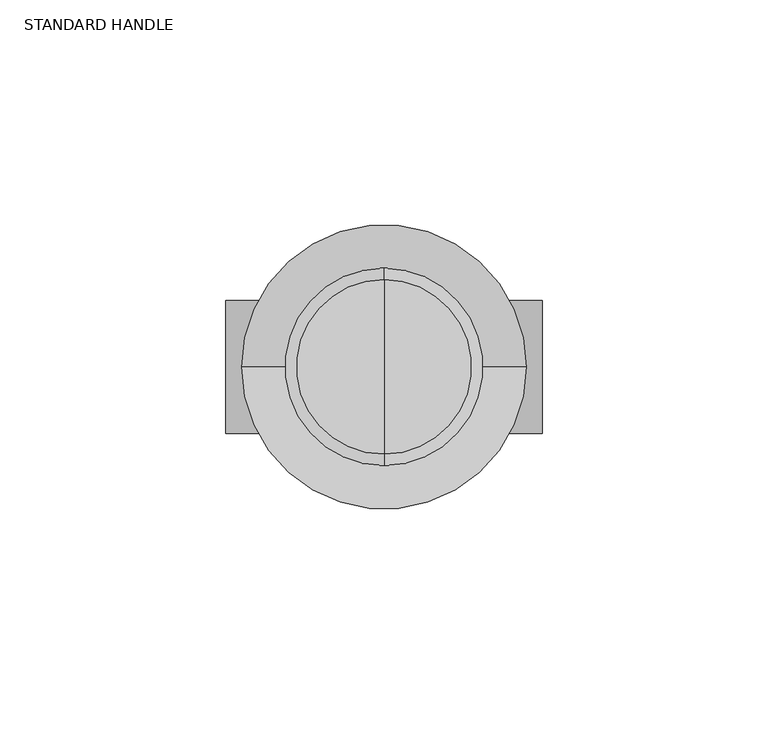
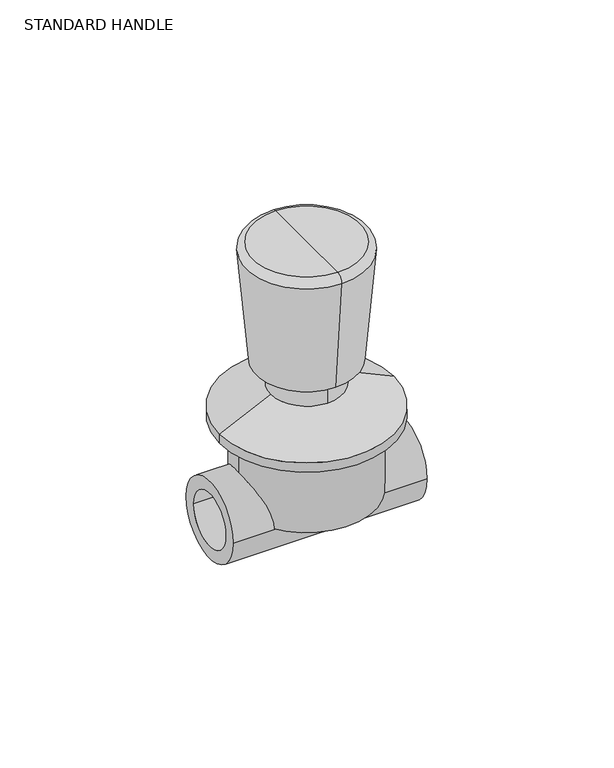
"""IFC4 building model written with IfcOpenShell, lengths in millimetres: valve geometry, Aquatherm - Concealed Valve Standard With Handle : STANDARD HANDLE."""

from ifc_helpers import new_model, si_unit, point, frame, origin, origin_2d, place, context, project, spatial, polyline, circle_curve, ellipse_curve, trimmed, segment, composite_curve, outline, extrude, source, transform, mapped, element, save
from ifc_brep_helpers import plane_surface, cylinder_surface, revolved_surface, advanced_brep


def standard_handle_3c3e3a59(model_context):
    return source(origin(), model_context, "Body", "SolidModel", [
        advanced_brep(
        [(0.0, 19.3406564, 93.98), (0.0, -19.3406564, 93.98), (0.0, 0.0, 93.98), (0.0, 21.870991, 91.2186244), (0.0, -21.870991, 91.2186244), (0.0, 18.2125979, 49.403), (0.0, -18.2125979, 49.403), (0.0, 12.9442633, 49.403), (0.0, -12.9442633, 49.403), (0.0, 12.9442633, 40.193595), (0.0, -12.9442633, 40.193595), (0.0, 0.0, 40.193595)],
        [
            (0, 1, circle_curve(frame((0.0, 0.0, 93.98), z_axis=(0.0, 0.0, 1.0), x_axis=(0.0, -1.0, 0.0)), 19.3406564)),
            (1, 2),
            (2, 0),
            (1, 0, circle_curve(frame((0.0, 0.0, 93.98), z_axis=(0.0, 0.0, 1.0), x_axis=(0.0, -1.0, 0.0)), 19.3406564)),
            (3, 4, circle_curve(frame((0.0, 0.0, 91.2186244), z_axis=(0.0, 0.0, 1.0), x_axis=(0.0, -1.0, 0.0)), 21.870991)),
            (4, 1, circle_curve(frame((0.0, -19.3406564, 91.44), z_axis=(-1.0, 0.0, 0.0), x_axis=(0.0, -1.0, 0.0)), 2.54)),
            (0, 3, circle_curve(frame((0.0, 19.3406564, 91.44), z_axis=(-1.0, 0.0, 0.0), x_axis=(0.0, 1.0, 0.0)), 2.54)),
            (4, 3, circle_curve(frame((0.0, 0.0, 91.2186244), z_axis=(0.0, 0.0, 1.0), x_axis=(0.0, -1.0, 0.0)), 21.870991)),
            (5, 6, circle_curve(frame((0.0, 0.0, 49.403), z_axis=(0.0, 0.0, 1.0), x_axis=(0.0, -1.0, 0.0)), 18.2125979)),
            (6, 4),
            (3, 5),
            (6, 5, circle_curve(frame((0.0, 0.0, 49.403), z_axis=(0.0, 0.0, 1.0), x_axis=(0.0, -1.0, 0.0)), 18.2125979)),
            (7, 8, circle_curve(frame((0.0, 0.0, 49.403), z_axis=(0.0, 0.0, 1.0), x_axis=(0.0, -1.0, 0.0)), 12.9442633)),
            (8, 6),
            (5, 7),
            (8, 7, circle_curve(frame((0.0, 0.0, 49.403), z_axis=(0.0, 0.0, 1.0), x_axis=(0.0, -1.0, 0.0)), 12.9442633)),
            (9, 10, circle_curve(frame((0.0, 0.0, 40.193595), z_axis=(0.0, 0.0, 1.0), x_axis=(0.0, -1.0, 0.0)), 12.9442633)),
            (10, 8),
            (7, 9),
            (10, 9, circle_curve(frame((0.0, 0.0, 40.193595), z_axis=(0.0, 0.0, 1.0), x_axis=(0.0, -1.0, 0.0)), 12.9442633)),
            (11, 10),
            (9, 11),
        ],
        [
            plane_surface(frame((0.0, 0.0, 93.98), z_axis=(0.0, 0.0, 1.0), x_axis=(0.0, -1.0, 0.0))),
            revolved_surface(trimmed(ellipse_curve(frame((0.0, -19.3406564, 91.44), z_axis=(1.0, 0.0, 0.0), x_axis=(0.0, -1.0, 0.0)), 2.54, 2.54), [point((0.0, -19.3406564, 93.98))], [point((0.0, -21.870991, 91.2186244))], True, "CARTESIAN"), (0.0, 0.0, 116.5596097), (0.0, 0.0, -1.0)),
            revolved_surface(polyline([(0.0, -21.870991, 91.2186244), (0.0, -18.2125979, 49.403)]), (0.0, 0.0, 116.5596097), (0.0, 0.0, -1.0)),
            plane_surface(frame((0.0, 0.0, 49.403), z_axis=(0.0, 0.0, -1.0), x_axis=(0.0, -1.0, 0.0))),
            cylinder_surface(frame((0.0, 0.0, 116.5596097), z_axis=(0.0, 0.0, -1.0), x_axis=(0.0, -1.0, 0.0)), 12.9442633),
            plane_surface(frame((0.0, 0.0, 40.193595), z_axis=(0.0, 0.0, -1.0), x_axis=(0.0, -1.0, 0.0))),
        ],
        [
            (0, [[1, 2, 3]]),
            (0, [[4, -3, -2]]),
            (1, [[5, 6, -1, 7]]),
            (1, [[8, -7, -4, -6]]),
            (2, [[9, 10, -5, 11]]),
            (2, [[12, -11, -8, -10]]),
            (3, [[13, 14, -9, 15]]),
            (3, [[16, -15, -12, -14]]),
            (4, [[17, 18, -13, 19]]),
            (4, [[20, -19, -16, -18]]),
            (5, [[21, -17, 22]]),
            (5, [[-22, -20, -21]]),
        ],
    ),
        advanced_brep(
        [(-12.827, 0.0, 40.193595), (12.827, 0.0, 40.193595), (-31.496, 0.0, 31.4917667), (31.496, 0.0, 31.4917667)],
        [
            (0, 1, circle_curve(frame((0.0, 0.0, 40.193595), z_axis=(0.0, 0.0, 1.0), x_axis=(-1.0, 0.0, 0.0)), 12.827)),
            (1, 0, circle_curve(frame((0.0, 0.0, 40.193595), z_axis=(0.0, 0.0, 1.0), x_axis=(1.0, 0.0, 0.0)), 12.827)),
            (2, 3, circle_curve(frame((0.0, 0.0, 31.4917667), z_axis=(0.0, 0.0, -1.0), x_axis=(1.0, 0.0, 0.0)), 31.496)),
            (3, 2, circle_curve(frame((0.0, 0.0, 31.4917667), z_axis=(0.0, 0.0, -1.0), x_axis=(-1.0, 0.0, 0.0)), 31.496)),
            (3, 1),
            (0, 2),
        ],
        [
            plane_surface(frame((0.0, 0.0, 40.193595), z_axis=(0.0, 0.0, 1.0), x_axis=(0.0, -1.0, 0.0))),
            plane_surface(frame((0.0, 0.0, 31.4917667), z_axis=(0.0, 0.0, -1.0), x_axis=(0.0, -1.0, 0.0))),
            revolved_surface(polyline([(-12.82700000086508, 0.0, 40.193595), (-31.496, 0.0, 31.4917667)]), (0.0, 0.0, 46.1724022), (0.0, 0.0, -1.0)),
            revolved_surface(polyline([(12.82700000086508, 0.0, 40.193595), (31.496, 0.0, 31.4917667)]), (0.0, 0.0, 46.1724022), (0.0, 0.0, -1.0)),
        ],
        [
            (0, [[1, 2]]),
            (1, [[3, 4]]),
            (2, [[-4, 5, -1, 6]]),
            (3, [[-3, -6, -2, -5]]),
        ],
    ),
        extrude(outline(composite_curve([segment(trimmed(circle_curve(origin_2d(), 31.496), [point((-31.496, 0.0))], [point((31.496, 0.0))], False, "CARTESIAN"), True, "CONTINUOUS"), segment(trimmed(circle_curve(origin_2d(), 31.496), [point((31.496, 0.0))], [point((-31.496, 0.0))], False, "CARTESIAN"), True, "CONTINUOUS")], self_intersect=False)), frame((0.0, 0.0, 27.94), z_axis=(0.0, 0.0, 1.0), x_axis=(1.0, 0.0, 0.0)), (0.0, 0.0, 1.0), 3.5517667),
        extrude(outline(composite_curve([segment(trimmed(circle_curve(origin_2d(), 12.827), [point((0.0, 12.827))], [point((0.0, -12.827))], False, "CARTESIAN"), True, "CONTINUOUS"), segment(trimmed(circle_curve(origin_2d(), 12.827), [point((0.0, -12.827))], [point((0.0, 12.827))], False, "CARTESIAN"), True, "CONTINUOUS")], self_intersect=False)), frame((0.0, 0.0, 24.638), z_axis=(0.0, 0.0, 1.0), x_axis=(1.0, 0.0, 0.0)), (0.0, 0.0, 1.0), 3.302),
        advanced_brep(
        [(0.0, 0.0, 24.638), (24.638, 0.0, 24.638), (-24.638, 0.0, 24.638), (-24.638, 0.0, 0.0), (24.638, 0.0, 0.0), (0.0, 0.0, 0.0)],
        [
            (0, 1),
            (1, 2, circle_curve(frame((0.0, 0.0, 24.638), z_axis=(0.0, 0.0, 1.0), x_axis=(1.0, 0.0, 0.0)), 24.638)),
            (2, 0),
            (2, 1, circle_curve(frame((0.0, 0.0, 24.638), z_axis=(0.0, 0.0, 1.0), x_axis=(1.0, 0.0, 0.0)), 24.638)),
            (3, 4, circle_curve(frame((0.0, 0.0, 0.0), z_axis=(0.0, 0.0, -1.0), x_axis=(1.0, 0.0, 0.0)), 24.638)),
            (4, 5),
            (5, 3),
            (4, 3, circle_curve(frame((0.0, 0.0, 0.0), z_axis=(0.0, 0.0, -1.0), x_axis=(1.0, 0.0, 0.0)), 24.638)),
            (1, 4),
            (3, 2),
        ],
        [
            plane_surface(frame((0.0, 0.0, 24.638), z_axis=(0.0, 0.0, 1.0), x_axis=(1.0, 0.0, 0.0))),
            plane_surface(frame((0.0, 0.0, 0.0), z_axis=(0.0, 0.0, -1.0), x_axis=(1.0, 0.0, 0.0))),
            cylinder_surface(frame((0.0, 0.0, 29.5374888), z_axis=(0.0, 0.0, 1.0), x_axis=(1.0, 0.0, 0.0)), 24.638),
        ],
        [
            (0, [[1, 2, 3]]),
            (0, [[-3, 4, -1]]),
            (1, [[5, 6, 7]]),
            (1, [[8, -7, -6]]),
            (2, [[-2, 9, -5, 10]]),
            (2, [[-4, -10, -8, -9]]),
        ],
    ),
        extrude(outline(composite_curve([segment(trimmed(circle_curve(origin_2d(), 14.732), [point((-14.732, 0.0))], [point((14.732, 0.0))], False, "CARTESIAN"), True, "CONTINUOUS"), segment(trimmed(circle_curve(origin_2d(), 14.732), [point((14.732, 0.0))], [point((-14.732, 0.0))], False, "CARTESIAN"), True, "CONTINUOUS")], self_intersect=False), holes=[composite_curve([segment(trimmed(circle_curve(origin_2d(), 10.033), [point((-10.033, 0.0))], [point((10.033, 0.0))], True, "CARTESIAN"), True, "CONTINUOUS"), segment(trimmed(circle_curve(origin_2d(), 10.033), [point((10.033, 0.0))], [point((-10.033, 0.0))], True, "CARTESIAN"), True, "CONTINUOUS")], self_intersect=False)]), frame((-35.052, 0.0, 0.0), z_axis=(1.0, 0.0, 0.0), x_axis=(0.0, 1.0, 0.0)), (0.0, 0.0, 1.0), 70.104),
    ])


if __name__ == "__main__":
    model = new_model("IFC4")
    model_context = context("Model", 3, world=origin())
    ifc_project = project(units=[si_unit("LENGTHUNIT", "METRE", prefix="MILLI")], contexts=[model_context])
    site = spatial("IfcSite", under=ifc_project)
    building = spatial("IfcBuilding", under=site)
    placement = place(None, origin())
    standard_handle_shape = standard_handle_3c3e3a59(model_context)
    element("IfcValve", 1, ObjectType="Aquatherm - Concealed Valve Standard With Handle : STANDARD HANDLE", at=placement, inside=building, context=model_context, shape_type="MappedRepresentation", body=[
        mapped(standard_handle_shape, transform((0.0, 0.0, 0.0), x_axis=(1.0, 0.0, 0.0), y_axis=(0.0, 1.0, 0.0), z_axis=(0.0, 0.0, 1.0))),
    ])
    save(model, "model.ifc")
